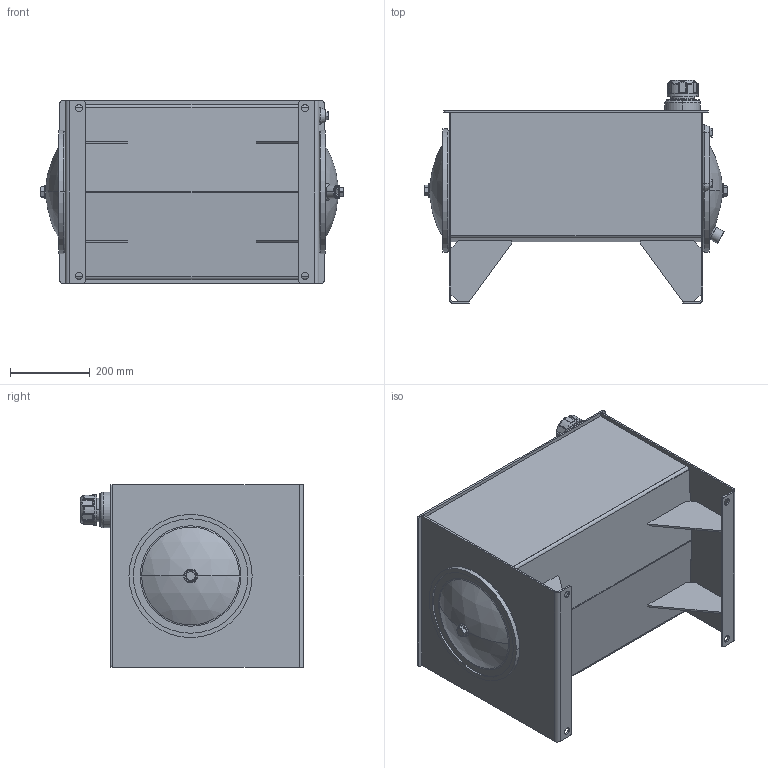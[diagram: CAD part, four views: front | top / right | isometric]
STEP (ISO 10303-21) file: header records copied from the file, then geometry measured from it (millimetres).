
FILE_DESCRIPTION (( 'STEP AP203' ), '1' );
FILE_NAME ('RJIC015-FT.STEP', '2015-01-07T16:44:41', ( '' ), ( '' ), 'SwSTEP 2.0', 'SolidWorks 2014', '' );
FILE_SCHEMA (( 'CONFIG_CONTROL_DESIGN' ));
Length unit declared in the file: inch
Products named in the file (1): RJIC015-FT
Bounding box: 756.19 x 557.96 x 457.2 mm (x, y, z)
Volume: 7264699.6 mm3; surface area: 3843085 mm2
Topology: 23 solids, 23 shells, 725 faces, 1701 edges, 1025 vertices
Faces by surface type: cylinder 252, plane 246, cone 84, torus 60, bspline 51, sphere 32
Entity records: 23724 total; most frequent: CARTESIAN_POINT 6906, DIRECTION 3672, ORIENTED_EDGE 3378, EDGE_CURVE 1689, AXIS2_PLACEMENT_3D 1461, VERTEX_POINT 1025, EDGE_LOOP 820, CIRCLE 786
